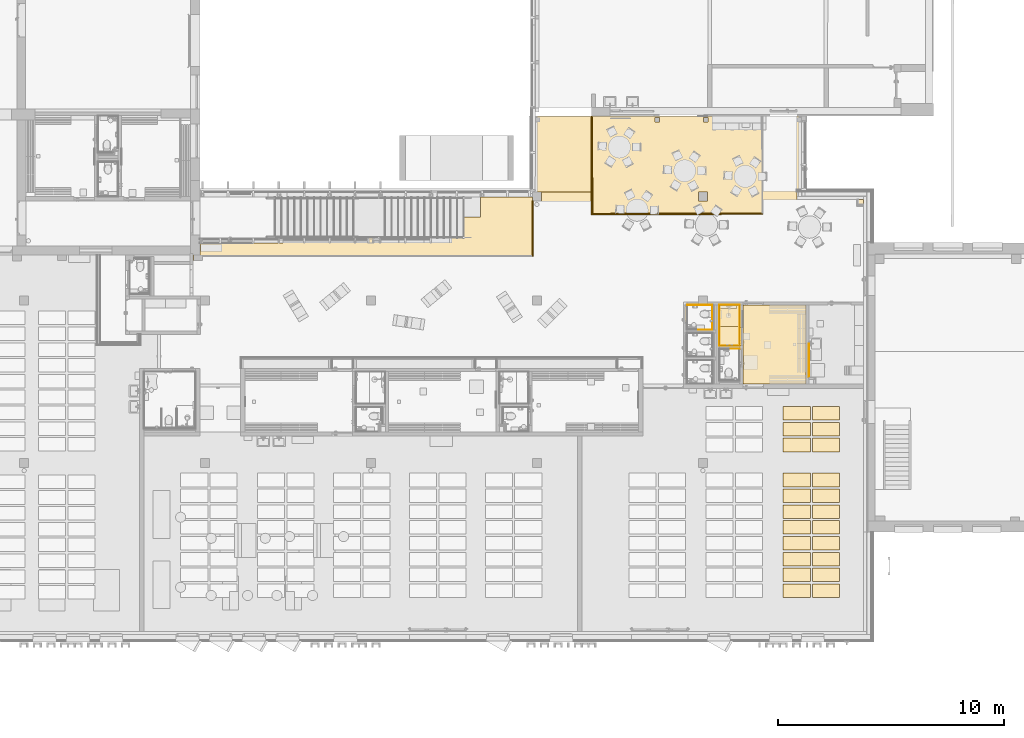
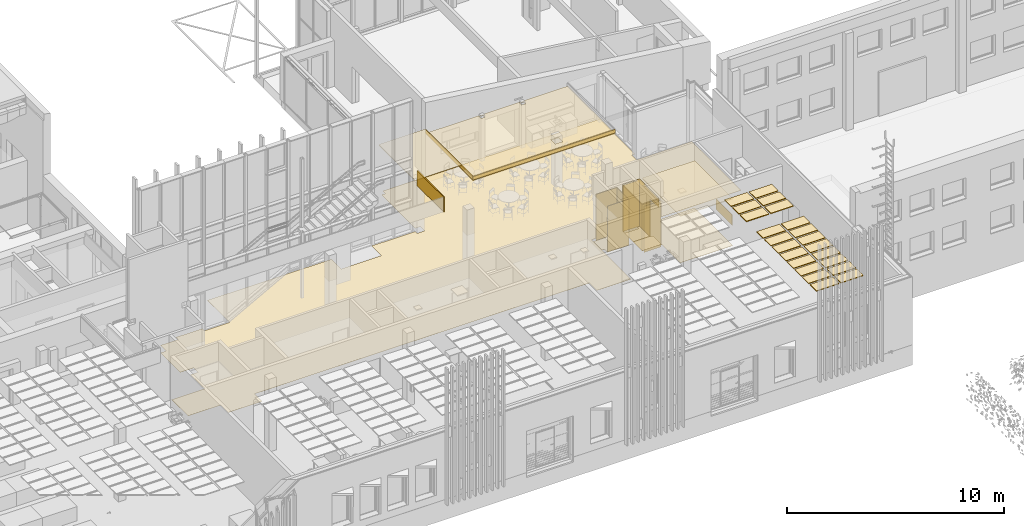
# One storey, part 239 of 301: 43 coverings, 1 opening.
"""IFC2X3 building model written with IfcOpenShell, lengths in millimetres."""

from ifc_helpers import new_model, entity, si_unit, converted_unit, derived_unit, money_unit, direction, frame, origin_with_axes, place, context, subcontext, project, spatial, faceted_brep, material, type_object, element, save


model = new_model("IFC2X3")

# Units and contexts
model_context = context("Model", 3, precision=0.01, world=origin_with_axes(), true_north=direction((0.0, 1.0)))
body_context = subcontext(model_context, "Body", "Model", "MODEL_VIEW")
ifc_project = project(units=[si_unit("LENGTHUNIT", "METRE", prefix="MILLI"), si_unit("AREAUNIT", "SQUARE_METRE"), si_unit("VOLUMEUNIT", "CUBIC_METRE"), converted_unit("PLANEANGLEUNIT", "DEGREE", entity("IfcPlaneAngleMeasure", 0.0174532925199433), si_unit("PLANEANGLEUNIT", "RADIAN"), dimensions=[0, 0, 0, 0, 0, 0, 0]), money_unit("EUR"), converted_unit("TIMEUNIT", "Year", entity("IfcTimeMeasure", 31557600.0), si_unit("TIMEUNIT", "SECOND"), dimensions=[0, 0, 1, 0, 0, 0, 0]), si_unit("MASSUNIT", "GRAM", prefix="KILO"), si_unit("THERMODYNAMICTEMPERATUREUNIT", "DEGREE_CELSIUS"), si_unit("LUMINOUSINTENSITYUNIT", "LUMEN"), si_unit("ENERGYUNIT", "JOULE", prefix="MEGA"), derived_unit("THERMALCONDUCTANCEUNIT", [(si_unit("POWERUNIT", "WATT"), 1), (si_unit("LENGTHUNIT", "METRE"), -1), (si_unit("THERMODYNAMICTEMPERATUREUNIT", "KELVIN"), -1)]), derived_unit("SPECIFICHEATCAPACITYUNIT", [(si_unit("ENERGYUNIT", "JOULE"), 1), (si_unit("MASSUNIT", "GRAM", prefix="KILO"), -1), (si_unit("THERMODYNAMICTEMPERATUREUNIT", "KELVIN"), -1)]), derived_unit("MASSDENSITYUNIT", [(si_unit("MASSUNIT", "GRAM", prefix="KILO"), 1), (si_unit("VOLUMEUNIT", "CUBIC_METRE"), -1)])], contexts=[model_context])

# Site, building, storey
site_placement = place(None, frame((0.0, 0.0, 8650.0), z_axis=(0.0, 0.0, 1.0), x_axis=(1.0, 0.0, 0.0)))
site = spatial("IfcSite", under=ifc_project, at=site_placement, Name="43301:001:0844", CompositionType="ELEMENT")
building_placement = place(site_placement, origin_with_axes())
building = spatial("IfcBuilding", under=site, at=building_placement, Name="Kuressaare Ametikooli tuulikute mehaanikute õppekorpus", CompositionType="ELEMENT")
storey_placement = place(building_placement, origin_with_axes())
storey = spatial("IfcBuildingStorey", under=building, at=storey_placement, Name="1.korrus", CompositionType="ELEMENT", Elevation=0.0)

# Coverings
ifc_material_1 = material(Name="GENEERILINE - KONSTRUKTRIOON")
covering_type_1 = type_object("IfcCoveringType", Name="GENEERILINE - KONSTRUKTRIOON 50", PredefinedType="CEILING")
covering_1_placement = place(storey_placement, frame((127685.2610406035, 20074.46984143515, 2600.0), z_axis=(0.0, 0.0, 1.0), x_axis=(1.0, 0.0, 0.0)))
element("IfcCovering", 1, at=covering_1_placement, inside=storey, type_object=covering_type_1, material=ifc_material_1, Name="RL2", PredefinedType="CEILING", context=body_context, shape_type="Brep", body=[
    faceted_brep([(0.0, 0.0, 49.99999999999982), (0.0, 0.0, 0.0), (2789.68544202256, 0.0, 0.0), (2789.68544202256, 0.0, 49.99999999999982), (0.0, 3499.599082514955, 49.99999999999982), (0.0, 3499.599082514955, 0.0), (2789.68544202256, 3499.599082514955, 0.0), (2789.68544202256, 3499.599082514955, 49.99999999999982)], [[[0, 1, 2, 3]], [[4, 5, 1, 0]], [[2, 1, 5, 6]], [[3, 2, 6, 7]], [[4, 0, 3, 7]], [[7, 6, 5, 4]]]),
])
covering_2_placement = place(storey_placement, frame((126645.2610406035, 21774.06892395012, 2600.0), z_axis=(0.0, 0.0, 1.0), x_axis=(1.0, 0.0, 0.0)))
element("IfcCovering", 2, at=covering_2_placement, inside=storey, type_object=covering_type_1, material=ifc_material_1, Name="RL2", PredefinedType="CEILING", context=body_context, shape_type="Brep", body=[
    faceted_brep([(0.0, 0.0, 49.99999999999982), (0.0, 0.0, 0.0), (899.9999999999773, 0.0, 0.0), (899.9999999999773, 0.0, 49.99999999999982), (0.0, 1799.999999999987, 49.99999999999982), (0.0, 1799.999999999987, 0.0), (899.9999999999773, 1799.999999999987, 0.0), (899.9999999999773, 1799.999999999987, 49.99999999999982)], [[[0, 1, 2, 3]], [[4, 5, 1, 0]], [[2, 1, 5, 6]], [[3, 2, 6, 7]], [[4, 0, 3, 7]], [[7, 6, 5, 4]]]),
])
covering_3_placement = place(storey_placement, frame((118493.1069862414, 31924.33615728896, 2640.000017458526), z_axis=(0.0, 0.0, 1.0), x_axis=(1.0, 0.0, 0.0)))
element("IfcCovering", 3, at=covering_3_placement, inside=storey, type_object=covering_type_1, material=ifc_material_1, Name="RL1", PredefinedType="CEILING", context=body_context, shape_type="Brep", body=[
    faceted_brep([(0.0, 0.0, 49.99999999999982), (0.0, 0.0, 0.0), (1.442085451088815, -3340.267233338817, 0.0), (1.442085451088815, -3340.267233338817, 49.99999999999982), (2484.082497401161, 1.072401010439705, 49.99999999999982), (2484.082497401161, 1.072401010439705, 0.0), (2484.082497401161, -3340.267233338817, 0.0), (2484.082497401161, -3340.267233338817, 49.99999999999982)], [[[0, 1, 2, 3]], [[4, 5, 1, 0]], [[2, 1, 5, 6]], [[3, 2, 6, 7]], [[4, 0, 3, 7]], [[7, 6, 5, 4]]]),
])
covering_4_placement = place(storey_placement, frame((120981.9066965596, 27571.84251959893, 2400.0), z_axis=(0.0, 0.0, 1.0), x_axis=(1.0, 0.0, 0.0)))
element("IfcCovering", 4, at=covering_4_placement, inside=storey, type_object=covering_type_1, material=ifc_material_1, Name="RL1", PredefinedType="CEILING", context=body_context, shape_type="Brep", body=[
    faceted_brep([(7578.757017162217, 4356.867673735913, 0.0), (7583.464834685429, 8.84259923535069, 0.0), (0.0, 0.0, 0.0), (-4.708196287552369, 4348.656688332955, 0.0), (4961.324344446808, 4306.994549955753, 0.0), (4961.324344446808, 4106.994549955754, 0.0), (5161.324344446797, 4106.994549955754, 0.0), (5161.324344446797, 4306.994549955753, 0.0), (4736.161660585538, 1012.22640435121, 0.0), (4736.161660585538, 612.2264043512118, 0.0), (5136.161660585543, 612.2264043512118, 0.0), (5136.161660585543, 1012.22640435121, 0.0), (2814.250954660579, 4306.994549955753, 0.0), (2814.250954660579, 4106.994549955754, 0.0), (3014.250954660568, 4106.994549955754, 0.0), (3014.250954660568, 4306.994549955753, 0.0), (7578.757017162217, 4356.867673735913, 49.99999999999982), (7583.464834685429, 8.84259923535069, 49.99999999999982), (0.0, 0.0, 49.99999999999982), (-4.708196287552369, 4348.656688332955, 49.99999999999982), (4961.324344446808, 4306.994549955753, 49.99999999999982), (4961.324344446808, 4106.994549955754, 49.99999999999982), (5161.324344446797, 4106.994549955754, 49.99999999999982), (5161.324344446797, 4306.994549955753, 49.99999999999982), (4736.161660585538, 1012.22640435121, 49.99999999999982), (4736.161660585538, 612.2264043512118, 49.99999999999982), (5136.161660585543, 612.2264043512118, 49.99999999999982), (5136.161660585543, 1012.22640435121, 49.99999999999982), (2814.250954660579, 4306.994549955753, 49.99999999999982), (2814.250954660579, 4106.994549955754, 49.99999999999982), (3014.250954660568, 4106.994549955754, 49.99999999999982), (3014.250954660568, 4306.994549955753, 49.99999999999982)], [[[0, 1, 2, 3], [4, 5, 6, 7], [8, 9, 10, 11], [12, 13, 14, 15]], [[16, 17, 1, 0]], [[17, 18, 2, 1]], [[18, 19, 3, 2]], [[19, 16, 0, 3]], [[4, 20, 21, 5]], [[5, 21, 22, 6]], [[6, 22, 23, 7]], [[7, 23, 20, 4]], [[8, 24, 25, 9]], [[9, 25, 26, 10]], [[10, 26, 27, 11]], [[11, 27, 24, 8]], [[12, 28, 29, 13]], [[13, 29, 30, 14]], [[14, 30, 31, 15]], [[15, 31, 28, 12]], [[16, 19, 18, 17], [22, 21, 20, 23], [26, 25, 24, 27], [30, 29, 28, 31]]]),
])
covering_type_2 = type_object("IfcCoveringType", Name="GENEERILINE - KONSTRUKTRIOON 40", PredefinedType="CEILING")
for number, where, z_axis, x_axis, name in (
    (5, (131971.7969869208, 13424.99999999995, 3530.0), (0.0, 0.0, 1.0), (1.0, 0.0, 0.0), "RL3"),
    (6, (131971.7969869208, 14124.99999999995, 3530.0), (0.0, 0.0, 1.0), (1.0, 0.0, 0.0), "RL3"),
    (7, (131971.7969869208, 14824.99999999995, 3530.0), (0.0, 0.0, 1.0), (1.0, 0.0, 0.0), "RL3"),
    (8, (131971.7969869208, 12724.99999999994, 3530.0), (0.0, 0.0, 1.0), (1.0, 0.0, 0.0), "RL3"),
    (9, (130671.7969869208, 13424.99999999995, 3530.0), (0.0, 0.0, 1.0), (1.0, 0.0, 0.0), "RL3"),
    (10, (130671.7969869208, 14124.99999999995, 3530.0), (0.0, 0.0, 1.0), (1.0, 0.0, 0.0), "RL3"),
    (11, (130671.7969869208, 14824.99999999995, 3530.0), (0.0, 0.0, 1.0), (1.0, 0.0, 0.0), "RL3"),
    (12, (130671.7969869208, 12724.99999999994, 3530.0), (0.0, 0.0, 1.0), (1.0, 0.0, 0.0), "RL3"),
    (13, (131971.7969869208, 12024.99999999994, 3530.0), (0.0, 0.0, 1.0), (1.0, 0.0, 0.0), "RL3"),
    (14, (130671.7969869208, 12024.99999999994, 3530.0), (0.0, 0.0, 1.0), (1.0, 0.0, 0.0), "RL3"),
    (15, (131971.7969869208, 11324.99999999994, 3530.0), (0.0, 0.0, 1.0), (1.0, 0.0, 0.0), "RL3"),
    (16, (130671.7969869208, 11324.99999999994, 3530.0), (0.0, 0.0, 1.0), (1.0, 0.0, 0.0), "RL3"),
    (17, (131971.7969869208, 15524.99999999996, 3530.0), (0.0, 0.0, 1.0), (1.0, 0.0, 0.0), "RL3"),
    (18, (130671.7969869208, 15524.99999999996, 3530.0), (0.0, 0.0, 1.0), (1.0, 0.0, 0.0), "RL3"),
    (19, (131971.7969869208, 10624.99999999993, 3530.0), (0.0, 0.0, 1.0), (1.0, 0.0, 0.0), "RL3"),
    (20, (130671.7969869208, 10624.99999999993, 3530.0), (0.0, 0.0, 1.0), (1.0, 0.0, 0.0), "RL3"),
):
    element("IfcCovering", number, at=place(storey_placement, frame(where, z_axis=z_axis, x_axis=x_axis)), inside=storey, type_object=covering_type_2, material=ifc_material_1, Name=name, PredefinedType="CEILING", context=body_context, shape_type="Brep", body=[
        faceted_brep([(0.0, 0.0, 0.0), (0.0, 0.0, -40.00000000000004), (0.0, 599.9999999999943, -40.00000000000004), (0.0, 599.9999999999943, 0.0), (-1199.999999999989, 0.0, 0.0), (-1199.999999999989, 0.0, -40.00000000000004), (-1199.999999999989, 599.9999999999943, -40.00000000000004), (-1199.999999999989, 599.9999999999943, 0.0)], [[[0, 1, 2, 3]], [[4, 5, 1, 0]], [[2, 1, 5, 6]], [[3, 2, 6, 7]], [[4, 0, 3, 7]], [[7, 6, 5, 4]]]),
    ])
for number, where, z_axis, x_axis, name in (
    (21, (131971.7969869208, 19074.046874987, 3530.0), (0.0, 0.0, 1.0), (1.0, 0.0, 0.0), "RL3"),
    (22, (131971.7969869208, 18374.04687498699, 3530.0), (0.0, 0.0, 1.0), (1.0, 0.0, 0.0), "RL3"),
    (23, (130671.7969869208, 19074.046874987, 3530.0), (0.0, 0.0, 1.0), (1.0, 0.0, 0.0), "RL3"),
    (24, (130671.7969869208, 18374.04687498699, 3530.0), (0.0, 0.0, 1.0), (1.0, 0.0, 0.0), "RL3"),
    (25, (131971.7969869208, 17674.04687498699, 3530.0), (0.0, 0.0, 1.0), (1.0, 0.0, 0.0), "RL3"),
    (26, (130671.7969869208, 17674.04687498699, 3530.0), (0.0, 0.0, 1.0), (1.0, 0.0, 0.0), "RL3"),
):
    element("IfcCovering", number, at=place(storey_placement, frame(where, z_axis=z_axis, x_axis=x_axis)), inside=storey, type_object=covering_type_2, material=ifc_material_1, Name=name, PredefinedType="CEILING", context=body_context, shape_type="Brep", body=[
        faceted_brep([(0.0, 0.0, 0.0), (0.0, 0.0, -40.00000000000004), (-1199.999999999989, 0.0, -40.00000000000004), (-1199.999999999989, 0.0, 0.0), (0.0, -599.9999999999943, 0.0), (0.0, -599.9999999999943, -40.00000000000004), (-1199.999999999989, -599.9999999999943, -40.00000000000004), (-1199.999999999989, -599.9999999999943, 0.0)], [[[0, 1, 2, 3]], [[4, 5, 1, 0]], [[2, 1, 5, 6]], [[3, 2, 6, 7]], [[4, 0, 3, 7]], [[7, 6, 5, 4]]]),
    ])
ifc_material_2 = material(Name="SA_viimistluskiht")
covering_type_3 = type_object("IfcCoveringType", Name="SA_viimistluskiht 10", PredefinedType="CLADDING")
covering_5_placement = place(storey_placement, frame((126335.2602993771, 23574.47014272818, 0.0), z_axis=(0.0, 0.0, 1.0), x_axis=(2.029745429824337e-07, -0.9999999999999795, 0.0)))
element("IfcCovering", 27, at=covering_5_placement, inside=storey, type_object=covering_type_3, material=ifc_material_2, Name="S3", PredefinedType="CLADDING", context=body_context, shape_type="Brep", body=[
    faceted_brep([(1089.999982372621, -9.999999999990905, 2600.0), (1089.999995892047, 0.0003133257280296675, 2600.0), (0.4012187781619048, 0.0004364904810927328, 2600.0), (0.4012167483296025, -9.999999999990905, 2600.0), (1089.999995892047, 0.0003133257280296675, 0.0), (1089.999982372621, -9.999999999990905, 0.0), (0.4012187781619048, 0.0004364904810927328, 0.0), (0.4012167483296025, -9.999999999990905, 0.0)], [[[0, 1, 2, 3]], [[4, 1, 0, 5]], [[1, 4, 6, 2]], [[3, 2, 6, 7]], [[5, 0, 3, 7]], [[4, 5, 7, 6]]]),
])
covering_6_placement = place(storey_placement, frame((126335.2605226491, 22474.47014683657, 0.0), z_axis=(0.0, 0.0, 1.0), x_axis=(-0.99999999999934, 1.148925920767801e-06, 0.0)))
element("IfcCovering", 28, at=covering_6_placement, inside=storey, type_object=covering_type_3, material=ifc_material_2, Name="S3", PredefinedType="CLADDING", context=body_context, shape_type="Brep", body=[
    faceted_brep([(1129.999938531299, -10.00000000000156, 0.0), (1129.999938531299, -10.00000000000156, 2600.0), (-0.0002998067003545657, -10.00000000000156, 2600.0), (-0.0002998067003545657, -10.00000000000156, 0.0), (1129.999925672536, 0.0, 2600.0), (1129.999925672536, 0.0, 0.0), (-0.0003146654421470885, -5.186961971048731e-10, 2600.0), (-0.0003146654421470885, 0.0, 0.0)], [[[0, 1, 2, 3]], [[4, 1, 0, 5]], [[1, 4, 6, 2]], [[3, 2, 6, 7]], [[5, 0, 3, 7]], [[4, 5, 7, 6]]]),
])
covering_7_placement = place(storey_placement, frame((126335.2602993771, 23574.47014272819, 0.0), z_axis=(0.0, 0.0, 1.0), x_axis=(-0.9999999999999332, -3.658297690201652e-07, 0.0)))
element("IfcCovering", 29, at=covering_7_placement, inside=storey, type_object=covering_type_3, material=ifc_material_2, Name="S3", PredefinedType="CLADDING", context=body_context, shape_type="Brep", body=[
    faceted_brep([(9.999999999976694, 0.0, 0.0), (217.1919422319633, 4.126476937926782e-08, 0.0), (217.1919422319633, 4.126476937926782e-08, 2600.0), (9.999999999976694, 0.0, 2600.0), (617.1919423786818, 0.4009929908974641, 0.0), (217.1919423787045, 0.4011393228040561, 0.0), (10.00000162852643, 10.00000000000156, 0.0), (1120.00026422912, 9.99999999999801, 0.0), (1120.000261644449, 2.210960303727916e-07, 0.0), (617.1919422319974, 1.209414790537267e-07, 0.0), (217.1919423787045, 0.4011393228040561, 2600.0), (617.1919423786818, 0.4009929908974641, 2600.0), (617.1919422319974, 1.209414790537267e-07, 2600.0), (1120.000261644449, 2.210960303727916e-07, 2600.0), (1120.00026422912, 9.99999999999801, 2600.0), (10.00000162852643, 10.00000000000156, 2600.0)], [[[0, 1, 2, 3]], [[4, 5, 1, 0, 6, 7, 8, 9]], [[5, 10, 2, 1]], [[10, 11, 12, 13, 14, 15, 3, 2]], [[15, 6, 0, 3]], [[4, 11, 10, 5]], [[14, 7, 6, 15]], [[8, 7, 14, 13]], [[13, 12, 9, 8]], [[4, 9, 12, 11]]]),
])

# Covering, opening
covering_8_placement = place(storey_placement, frame((127545.2612338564, 23574.06892394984, 0.0), z_axis=(0.0, 0.0, 1.0), x_axis=(-1.073627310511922e-07, -0.9999999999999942, 0.0)))
covering_8 = element("IfcCovering", 30, at=covering_8_placement, inside=storey, type_object=covering_type_3, material=ifc_material_2, Name="S3", PredefinedType="CLADDING", context=body_context, shape_type="Brep", body=[
    faceted_brep([(989.9996975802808, 0.0, 2110.0), (989.9996975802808, 0.0, 0.0), (9.999999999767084, -0.0001921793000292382, 0.0), (9.999999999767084, -0.0001921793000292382, 2600.0), (1790.000135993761, 0.0, 2600.0), (1790.000135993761, 0.0, 2110.0), (989.9996975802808, -10.00000000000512, 2110.0), (989.9996975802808, -10.00000000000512, 0.0), (9.999987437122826, -10.00000000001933, 0.0), (9.999987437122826, -10.00000000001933, 2600.0), (1790.000137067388, -10.00000000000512, 2600.0), (1790.000137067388, -10.00000000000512, 2110.0)], [[[0, 1, 2, 3, 4, 5]], [[1, 0, 6, 7]], [[1, 7, 8, 2]], [[3, 2, 8, 9]], [[4, 3, 9, 10]], [[11, 5, 4, 10]], [[0, 5, 11, 6]], [[6, 11, 10, 9, 8, 7]]]),
])
opening_placement = place(covering_8_placement, frame((1394.999697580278, 0.0, 0.0), z_axis=(0.0, 0.0, 1.0), x_axis=(1.0, 0.0, 0.0)))
element("IfcOpeningElement", 31, at=opening_placement, cuts=covering_8, Name="ava", context=body_context, shape_type="Brep", body=[
    faceted_brep([(-404.9999999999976, 0.0, 0.0), (-404.9999999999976, 0.0, 2110.0), (-404.9999999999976, 1.000193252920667, 2110.0), (-404.9999999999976, 1.000193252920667, 0.0), (-404.9999999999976, -11.00019325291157, 0.0), (-404.9999999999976, -11.00019325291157, 2110.0), (405.0000000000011, 0.0, 2110.0), (405.0000000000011, 1.000193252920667, 2110.0), (405.0000000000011, 1.000193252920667, 0.0), (405.0000000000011, 0.0, 0.0), (405.0000000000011, -11.00019325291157, 0.0), (405.0000000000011, -11.00019325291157, 2110.0)], [[[0, 1, 2, 3]], [[1, 0, 4, 5]], [[1, 6, 7, 2]], [[8, 3, 2, 7]], [[9, 0, 3, 8]], [[0, 9, 10, 4]], [[5, 4, 10, 11]], [[6, 1, 5, 11]], [[6, 9, 8, 7]], [[9, 6, 11, 10]]]),
])

# Coverings
covering_9_placement = place(storey_placement, frame((126645.2610406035, 21634.06892395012, 0.0), z_axis=(0.0, 0.0, 1.0), x_axis=(0.9999999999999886, -1.511044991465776e-07, 0.0)))
element("IfcCovering", 32, at=covering_9_placement, inside=storey, type_object=covering_type_3, material=ifc_material_2, Name="S3", PredefinedType="CLADDING", context=body_context, shape_type="Brep", body=[
    faceted_brep([(899.9999999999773, 0.0, 0.0), (900.0000015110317, -10.00000000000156, 0.0), (10.00000162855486, -10.00000000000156, 0.0), (10.00000000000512, 0.0, 0.0), (899.9999999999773, 0.0, 2600.0), (900.0000015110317, -10.00000000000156, 2600.0), (10.00000162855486, -9.99999999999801, 2600.0), (10.00000000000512, 0.0, 2600.0)], [[[0, 1, 2, 3]], [[1, 0, 4, 5]], [[1, 5, 6, 2]], [[7, 3, 2, 6]], [[4, 0, 3, 7]], [[5, 4, 7, 6]]]),
])
covering_10_placement = place(storey_placement, frame((126645.2611544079, 21774.06878795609, 0.0), z_axis=(0.0, 0.0, 1.0), x_axis=(1.175071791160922e-08, 1.0, 0.0)))
element("IfcCovering", 33, at=covering_10_placement, inside=storey, type_object=covering_type_3, material=ifc_material_2, Name="S3", PredefinedType="CLADDING", context=body_context, shape_type="Brep", body=[
    faceted_brep([(10.00000000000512, 1.174953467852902e-07, 2600.0), (10.00000011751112, -9.999999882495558, 2600.0), (1790.001349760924, -9.999978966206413, 2600.0), (1790.00136327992, 1.351898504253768e-05, 2600.0), (10.00000011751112, -9.999999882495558, 0.0), (10.00000000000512, 1.174953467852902e-07, 0.0), (1790.001349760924, -9.999978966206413, 0.0), (1790.00136327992, 1.351898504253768e-05, 0.0)], [[[0, 1, 2, 3]], [[4, 1, 0, 5]], [[1, 4, 6, 2]], [[3, 2, 6, 7]], [[5, 0, 3, 7]], [[4, 5, 7, 6]]]),
])
covering_11_placement = place(storey_placement, frame((126645.2611755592, 23574.07015123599, 0.0), z_axis=(0.0, 0.0, 1.0), x_axis=(0.9999999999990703, -1.363651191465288e-06, 0.0)))
element("IfcCovering", 34, at=covering_11_placement, inside=storey, type_object=covering_type_3, material=ifc_material_2, Name="S3", PredefinedType="CLADDING", context=body_context, shape_type="Brep", body=[
    faceted_brep([(899.9998786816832, -10.00000000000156, 2600.0), (899.9998650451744, 0.0, 2600.0), (0.0, 0.0, 2600.0), (0.0, -10.00000000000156, 2600.0), (899.9998650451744, 0.0, 0.0), (899.9998786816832, -10.00000000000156, 0.0), (0.0, 0.0, 0.0), (0.0, -10.00000000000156, 0.0)], [[[0, 1, 2, 3]], [[4, 1, 0, 5]], [[1, 4, 6, 2]], [[3, 2, 6, 7]], [[5, 0, 3, 7]], [[4, 5, 7, 6]]]),
])
covering_12_placement = place(storey_placement, frame((126645.2611544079, 21774.06878795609, 0.0), z_axis=(0.0, 0.0, 1.0), x_axis=(0.9999999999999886, 1.511044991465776e-07, 0.0)))
element("IfcCovering", 35, at=covering_12_placement, inside=storey, type_object=covering_type_3, material=ifc_material_2, Name="S3", PredefinedType="CLADDING", context=body_context, shape_type="Brep", body=[
    faceted_brep([(0.0, 0.0, 2600.0), (899.9998861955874, -0.000135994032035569, 2600.0), (899.9998877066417, 9.999864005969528, 2600.0), (1.511054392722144e-06, 10.00000000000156, 2600.0), (0.0, 0.0, 0.0), (899.9998861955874, -0.000135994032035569, 0.0), (899.9998877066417, 9.999864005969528, 0.0), (1.511054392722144e-06, 10.00000000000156, 0.0)], [[[0, 1, 2, 3]], [[4, 5, 1, 0]], [[5, 6, 2, 1]], [[3, 2, 6, 7]], [[3, 7, 4, 0]], [[7, 6, 5, 4]]]),
])
covering_13_placement = place(storey_placement, frame((130614.9464826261, 21849.03786000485, 900.0), z_axis=(0.0, 0.0, 1.0), x_axis=(0.0, -1.0, 0.0)))
element("IfcCovering", 36, at=covering_13_placement, inside=storey, type_object=covering_type_3, material=ifc_material_2, Name="Plaat", PredefinedType="CLADDING", context=body_context, shape_type="Brep", body=[
    faceted_brep([(1482.568018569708, 0.0, 600.0), (1482.568018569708, 9.999999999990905, 600.0), (0.0, 9.999999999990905, 600.0), (0.0, 0.0, 600.0), (1482.568018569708, 0.0, 0.0), (1482.568018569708, 9.999999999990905, 0.0), (0.0, 9.999999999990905, 0.0), (0.0, 0.0, 0.0)], [[[0, 1, 2, 3]], [[0, 4, 5, 1]], [[1, 5, 6, 2]], [[3, 2, 6, 7]], [[4, 0, 3, 7]], [[5, 4, 7, 6]]]),
])
covering_type_4 = type_object("IfcCoveringType", Name="GENEERILINE - KONSTRUKTRIOON 3", PredefinedType="FLOORING")
covering_14_placement = place(storey_placement, frame((103667.7571242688, 22274.78038575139, 0.0), z_axis=(0.0, 0.0, 1.0), x_axis=(1.0, 0.0, 0.0)))
element("IfcCovering", 37, at=covering_14_placement, inside=storey, type_object=covering_type_4, material=ifc_material_1, Name="P9", PredefinedType="FLOORING", context=body_context, shape_type="Brep", body=[
    faceted_brep([(-1760.441111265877, -0.1560310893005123, 0.0), (0.0, 0.0, 0.0), (0.0, 0.0, -3.000000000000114), (-1760.441111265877, -0.1560310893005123, -3.000000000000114), (400.1950174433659, 1299.288538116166, 0.0), (0.1950175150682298, 1299.288538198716, 0.0), (-1760.307278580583, -1510.140754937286, 0.0), (-22.24516733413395, -1509.986707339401, 0.0), (-22.18398268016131, -2200.310544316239, 0.0), (1787.7548222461, -2200.310544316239, 0.0), (1787.7548222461, -1509.944692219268, 0.0), (19587.50380139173, -1509.942254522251, 0.0), (19587.50287161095, -2200.308106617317, 0.0), (21397.50332211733, -2200.310544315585, 0.0), (21397.50332211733, 1439.288538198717, 0.0), (29357.1893173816, 1439.288538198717, 0.0), (29357.1893173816, 5969.288538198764, 0.0), (26407.26559036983, 5969.298202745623, 0.0), (26408.42875121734, 6406.288538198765, 0.0), (26581.22391938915, 6404.721231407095, 0.0), (26581.54605316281, 9647.105115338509, 0.0), (15041.34488369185, 9648.251644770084, 0.0), (15041.34488369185, 9404.046900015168, 0.0), (14829.1825893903, 9404.046900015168, 0.0), (14829.1825893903, 6309.288538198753, 0.0), (15100.18944722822, 6309.288538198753, 0.0), (15100.18944722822, 5909.288538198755, 0.0), (14700.18944722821, 5909.288538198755, 0.0), (14700.18944722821, 6084.787683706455, 0.0), (12394.34026342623, 6084.787683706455, 0.0), (12394.34026342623, 5184.793362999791, 0.0), (10249.34555802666, 5184.793362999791, 0.0), (10249.34555802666, 6084.787683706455, 0.0), (3650.929715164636, 6084.787683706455, 0.0), (3650.929715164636, 4034.793362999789, 0.0), (2324.34555802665, 4034.793362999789, 0.0), (2324.34555802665, 4234.793362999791, 0.0), (914.3455775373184, 4234.793362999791, 0.0), (914.3455775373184, 4034.793362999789, 0.0), (-20.24491727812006, 4034.793362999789, 0.0), (-20.24491723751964, 3508.288538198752, 0.0), (-322.1024328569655, 3508.288538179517, 0.0), (-322.102432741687, 1699.289257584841, 0.0), (400.1950175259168, 1699.28925743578, 0.0), (0.1950175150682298, 1299.288538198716, -3.000000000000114), (-1760.307278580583, -1510.140754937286, -3.000000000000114), (400.1950174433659, 1299.288538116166, -3.000000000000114), (400.1950175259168, 1699.28925743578, -3.000000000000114), (-322.102432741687, 1699.289257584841, -3.000000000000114), (-322.1024328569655, 3508.288538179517, -3.000000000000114), (-20.24491723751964, 3508.288538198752, -3.000000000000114), (-20.24491727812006, 4034.793362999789, -3.000000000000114), (914.3455775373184, 4034.793362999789, -3.000000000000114), (914.3455775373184, 4234.793362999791, -3.000000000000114), (2324.34555802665, 4234.793362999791, -3.000000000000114), (2324.34555802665, 4034.793362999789, -3.000000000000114), (3650.929715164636, 4034.793362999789, -3.000000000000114), (3650.929715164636, 6084.787683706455, -3.000000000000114), (10249.34555802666, 6084.787683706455, -3.000000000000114), (10249.34555802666, 5184.793362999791, -3.000000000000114), (12394.34026342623, 5184.793362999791, -3.000000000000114), (12394.34026342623, 6084.787683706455, -3.000000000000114), (14700.18944722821, 6084.787683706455, -3.000000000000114), (14700.18944722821, 5909.288538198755, -3.000000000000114), (15100.18944722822, 5909.288538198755, -3.000000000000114), (15100.18944722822, 6309.288538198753, -3.000000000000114), (14829.1825893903, 6309.288538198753, -3.000000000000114), (14829.1825893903, 9404.046900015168, -3.000000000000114), (15041.34488369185, 9404.046900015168, -3.000000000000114), (15041.34488369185, 9648.251644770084, -3.000000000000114), (26581.54605316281, 9647.105115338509, -3.000000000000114), (26581.22391938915, 6404.721231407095, -3.000000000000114), (26408.42875121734, 6406.288538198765, -3.000000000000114), (26407.26559036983, 5969.298202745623, -3.000000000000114), (29357.1893173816, 5969.288538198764, -3.000000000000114), (29357.1893173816, 1439.288538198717, -3.000000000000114), (21397.50332211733, 1439.288538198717, -3.000000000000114), (21397.50332211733, -2200.310544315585, -3.000000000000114), (19587.50287161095, -2200.308106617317, -3.000000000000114), (19587.50380139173, -1509.942254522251, -3.000000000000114), (1787.7548222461, -1509.944692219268, -3.000000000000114), (1787.7548222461, -2200.310544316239, -3.000000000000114), (-22.18398268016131, -2200.310544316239, -3.000000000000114), (-22.24516733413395, -1509.986707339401, -3.000000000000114)], [[[0, 1, 2, 3]], [[4, 5, 1, 0, 6, 7, 8, 9, 10, 11, 12, 13, 14, 15, 16, 17, 18, 19, 20, 21, 22, 23, 24, 25, 26, 27, 28, 29, 30, 31, 32, 33, 34, 35, 36, 37, 38, 39, 40, 41, 42, 43]], [[1, 5, 44, 2]], [[45, 3, 2, 44, 46, 47, 48, 49, 50, 51, 52, 53, 54, 55, 56, 57, 58, 59, 60, 61, 62, 63, 64, 65, 66, 67, 68, 69, 70, 71, 72, 73, 74, 75, 76, 77, 78, 79, 80, 81, 82, 83]], [[6, 0, 3, 45]], [[5, 4, 46, 44]], [[7, 6, 45, 83]], [[8, 7, 83, 82]], [[9, 8, 82, 81]], [[10, 9, 81, 80]], [[11, 10, 80, 79]], [[12, 11, 79, 78]], [[13, 12, 78, 77]], [[14, 13, 77, 76]], [[15, 14, 76, 75]], [[16, 15, 75, 74]], [[17, 16, 74, 73]], [[18, 17, 73, 72]], [[19, 18, 72, 71]], [[20, 19, 71, 70]], [[21, 20, 70, 69]], [[22, 21, 69, 68]], [[23, 22, 68, 67]], [[24, 23, 67, 66]], [[25, 24, 66, 65]], [[26, 25, 65, 64]], [[27, 26, 64, 63]], [[28, 27, 63, 62]], [[29, 28, 62, 61]], [[30, 29, 61, 60]], [[31, 30, 60, 59]], [[32, 31, 59, 58]], [[33, 32, 58, 57]], [[34, 33, 57, 56]], [[35, 34, 56, 55]], [[36, 35, 55, 54]], [[37, 36, 54, 53]], [[38, 37, 53, 52]], [[39, 38, 52, 51]], [[40, 39, 51, 50]], [[41, 40, 50, 49]], [[42, 41, 49, 48]], [[43, 42, 48, 47]], [[4, 43, 47, 46]]]),
])
covering_type_5 = type_object("IfcCoveringType", Name="GENEERILINE - KONSTRUKTRIOON 10", PredefinedType="FLOORING")
covering_15_placement = place(storey_placement, frame((125065.2604634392, 23564.06925964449, 0.0), z_axis=(0.0, 0.0, 1.0), x_axis=(1.0, 0.0, 0.0)))
element("IfcCovering", 38, at=covering_15_placement, inside=storey, type_object=covering_type_5, material=ifc_material_1, Name="P3a", PredefinedType="FLOORING", context=body_context, shape_type="Brep", body=[
    faceted_brep([(0.0, 0.0, 0.0), (0.0, 0.0, -10.0), (9.387744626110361e-05, -800.0003548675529, -10.0), (9.387744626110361e-05, -800.0003548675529, 0.0), (1260.000467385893, 0.0, 0.0), (1260.000467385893, 0.0, -10.0), (1260.000467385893, -1079.597826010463, -10.0), (150.0000364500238, -1079.597826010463, -10.0), (150.0000583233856, -800.0003548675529, -10.0), (150.0000583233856, -800.0003548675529, 0.0), (150.0000364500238, -1079.597826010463, 0.0), (1260.000467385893, -1079.597826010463, 0.0)], [[[0, 1, 2, 3]], [[4, 5, 1, 0]], [[2, 1, 5, 6, 7, 8]], [[3, 2, 8, 9]], [[4, 0, 3, 9, 10, 11]], [[11, 6, 5, 4]], [[10, 7, 6, 11]], [[9, 8, 7, 10]]]),
])
covering_16_placement = place(storey_placement, frame((127685.2610406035, 22584.06921074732, 0.0), z_axis=(0.0, 0.0, 1.0), x_axis=(1.0, 0.0, 0.0)))
element("IfcCovering", 39, at=covering_16_placement, inside=storey, type_object=covering_type_5, material=ifc_material_1, Name="P3b", PredefinedType="FLOORING", context=body_context, shape_type="Brep", body=[
    faceted_brep([(0.0, 0.0, 0.0), (0.0, 0.0, -10.0), (-150.95305476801, 1.680196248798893e-05, -10.0), (-150.95305476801, 1.680196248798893e-05, 0.0), (-0.0001162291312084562, -800.0003059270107, 0.0), (-0.0001162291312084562, -800.0003059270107, -10.0), (-1029.999876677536, -800.0002518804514, -10.0), (-1029.999876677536, 40.00010742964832, -10.0), (-150.9530503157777, 40.00001679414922, -10.0), (-150.9530503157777, 40.00001679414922, 0.0), (-1029.999876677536, 40.00010742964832, 0.0), (-1029.999876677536, -800.0002518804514, 0.0)], [[[0, 1, 2, 3]], [[4, 5, 1, 0]], [[2, 1, 5, 6, 7, 8]], [[3, 2, 8, 9]], [[4, 0, 3, 9, 10, 11]], [[11, 6, 5, 4]], [[10, 7, 6, 11]], [[9, 8, 7, 10]]]),
])
covering_17_placement = place(storey_placement, frame((127534.3081384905, 23564.06893050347, 0.0), z_axis=(0.0, 0.0, 1.0), x_axis=(1.0, 0.0, 0.0)))
element("IfcCovering", 40, at=covering_17_placement, inside=storey, type_object=covering_type_5, material=ifc_material_1, Name="P3b", PredefinedType="FLOORING", context=body_context, shape_type="Brep", body=[
    faceted_brep([(0.0, 0.0, 0.0), (0.0, 0.0, -10.0), (-129.0481114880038, -0.0009590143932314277, -10.0), (-129.0481114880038, -0.0009590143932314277, 0.0), (-0.0001482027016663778, -939.9997029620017, 0.0), (-0.0001482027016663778, -939.9997029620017, -10.0), (-879.0469725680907, -939.9996123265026, -10.0), (-879.0470018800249, 10.00094244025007, -10.0), (-829.0473164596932, 10.00094244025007, -10.0), (-829.0471246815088, -140.0000065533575, -10.0), (-129.0470710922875, -140.0000065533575, -10.0), (-129.0470710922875, -140.0000065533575, 0.0), (-829.0471246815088, -140.0000065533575, 0.0), (-829.0473164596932, 10.00094244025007, 0.0), (-879.0470018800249, 10.00094244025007, 0.0), (-879.0469725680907, -939.9996123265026, 0.0)], [[[0, 1, 2, 3]], [[4, 5, 1, 0]], [[2, 1, 5, 6, 7, 8, 9, 10]], [[3, 2, 10, 11]], [[4, 0, 3, 11, 12, 13, 14, 15]], [[15, 6, 5, 4]], [[14, 7, 6, 15]], [[13, 8, 7, 14]], [[12, 9, 8, 13]], [[11, 10, 9, 12]]]),
])
covering_18_placement = place(storey_placement, frame((130474.9464826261, 20074.46984143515, 0.0), z_axis=(0.0, 0.0, 1.0), x_axis=(1.0, 0.0, 0.0)))
element("IfcCovering", 41, at=covering_18_placement, inside=storey, type_object=covering_type_5, material=ifc_material_1, Name="P3a", PredefinedType="FLOORING", context=body_context, shape_type="Brep", body=[
    faceted_brep([(0.0, 0.0, 0.0), (0.0, 0.0, -10.0), (0.0, 3492.203828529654, -10.0), (0.0, 3492.203828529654, 0.0), (-2789.68544202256, 0.0, 0.0), (-2789.68544202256, 0.0, -10.0), (-2789.68544202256, 3492.203828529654, -10.0), (-2789.68544202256, 3492.203828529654, 0.0)], [[[0, 1, 2, 3]], [[4, 5, 1, 0]], [[2, 1, 5, 6]], [[3, 2, 6, 7]], [[4, 0, 3, 7]], [[7, 6, 5, 4]]]),
])
ifc_material_3 = material(Name="Air Space")
covering_type_6 = type_object("IfcCoveringType", Name="Air Space 50", PredefinedType="CEILING")
covering_19_placement = place(storey_placement, frame((120977.1894836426, 31928.82728576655, 2450.0), z_axis=(0.0, 0.0, 1.0), x_axis=(0.001082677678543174, -0.9999994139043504, 0.0)))
element("IfcCovering", 42, at=covering_19_placement, inside=storey, type_object=covering_type_6, material=ifc_material_3, Name="RL1", PredefinedType="CEILING", context=body_context, shape_type="Brep", body=[
    faceted_brep([(4348.23136416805, 49.99999999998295, 0.0), (4348.23136416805, 0.0, 0.0), (0.0, 0.0, 0.0), (0.0, 49.99999999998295, 0.0), (4348.23136416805, 49.99999999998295, 190.0000174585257), (4348.23136416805, 0.0, 190.0000174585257), (0.0, 0.0, 190.0000174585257), (0.0, 49.99999999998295, 190.0000174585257)], [[[0, 1, 2, 3]], [[0, 4, 5, 1]], [[1, 5, 6, 2]], [[3, 2, 6, 7]], [[4, 0, 3, 7]], [[5, 4, 7, 6]]]),
])
covering_20_placement = place(storey_placement, frame((120981.9066965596, 27571.84251959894, 2450.0), z_axis=(0.0, 0.0, 1.0), x_axis=(0.9999993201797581, 0.001166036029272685, 0.0)))
element("IfcCovering", 43, at=covering_20_placement, inside=storey, type_object=covering_type_6, material=ifc_material_3, Name="RL1", PredefinedType="CEILING", context=body_context, shape_type="Brep", body=[
    faceted_brep([(7583.469990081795, 0.0, 0.0), (0.0, 0.0, 0.0), (0.0, 49.99999999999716, 0.0), (7583.474154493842, 50.00000000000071, 0.0), (7583.469990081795, 0.0, 190.0000174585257), (0.0, 0.0, 190.0000174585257), (0.0, 49.99999999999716, 190.0000174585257), (7583.474154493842, 50.00000000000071, 190.0000174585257)], [[[0, 1, 2, 3]], [[4, 5, 1, 0]], [[2, 1, 5, 6]], [[3, 2, 6, 7]], [[3, 7, 4, 0]], [[7, 6, 5, 4]]]),
])
covering_21_placement = place(storey_placement, frame((118367.946571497, 28184.06892395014, 2690.000017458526), z_axis=(0.0, 0.0, 1.0), x_axis=(0.0, -1.0, 0.0)))
element("IfcCovering", 44, at=covering_21_placement, inside=storey, type_object=covering_type_6, material=ifc_material_3, Name="RL1", PredefinedType="CEILING", context=body_context, shape_type="Brep", body=[
    faceted_brep([(2451.0, 49.99999999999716, 0.0), (2451.0, 0.0, 0.0), (0.0, 0.0, 0.0), (0.0, 49.99999999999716, 0.0), (2451.0, 49.99999999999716, 839.9999825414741), (2451.0, 0.0, 839.9999825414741), (0.0, 0.0, 839.9999825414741), (0.0, 49.99999999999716, 839.9999825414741)], [[[0, 1, 2, 3]], [[1, 0, 4, 5]], [[1, 5, 6, 2]], [[7, 3, 2, 6]], [[4, 0, 3, 7]], [[5, 4, 7, 6]]]),
])

save(model, "model.ifc")
